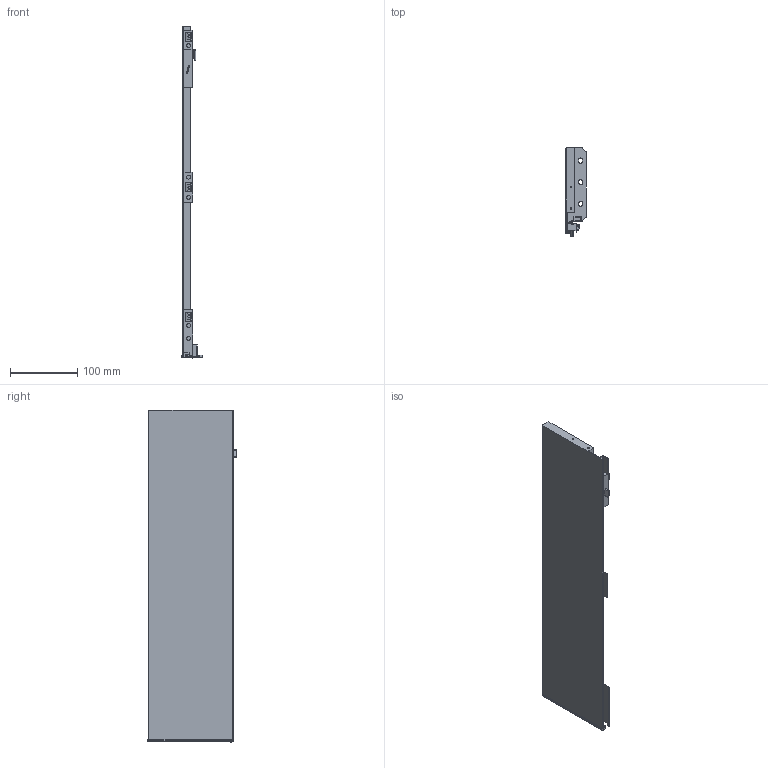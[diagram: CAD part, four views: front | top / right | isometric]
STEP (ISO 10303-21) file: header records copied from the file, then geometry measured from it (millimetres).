
FILE_DESCRIPTION (( 'STEP AP203' ), '1' );
FILE_NAME ('HE125001-L.STEP', '2021-03-30T01:40:53', ( 'Users' ), ( 'Microsoft' ), 'SwSTEP 2.0', 'SolidWorks 2018', '' );
FILE_SCHEMA (( 'CONFIG_CONTROL_DESIGN' ));
Length unit declared in the file: millimetre
Products named in the file (1): HE125001-L
Bounding box: 31 x 131.9 x 492.19 mm (x, y, z)
Volume: 657682.8 mm3; surface area: 151719.3 mm2
Topology: 1 solids, 1 shells, 471 faces, 1167 edges, 696 vertices
Faces by surface type: cylinder 196, plane 166, torus 78, bspline 24, cone 6, sphere 1
Entity records: 14253 total; most frequent: CARTESIAN_POINT 3070, DIRECTION 2413, ORIENTED_EDGE 2314, EDGE_CURVE 1157, AXIS2_PLACEMENT_3D 903, VERTEX_POINT 696, VECTOR 607, LINE 607
